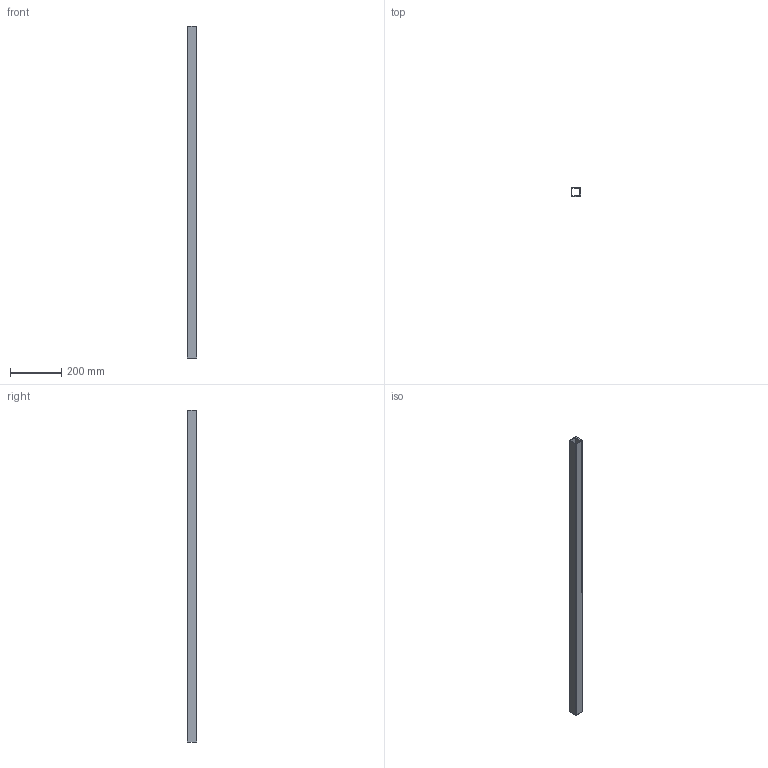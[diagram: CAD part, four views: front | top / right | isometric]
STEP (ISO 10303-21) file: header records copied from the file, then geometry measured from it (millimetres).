
FILE_DESCRIPTION(/* description */ (''),/* implementation_level */ '2;1');
FILE_NAME(/* name */ 'GL0305030101-A(四方管L1).stp',/* time_stamp */ '2026-09-24T14:08:32+08:00',/* author */ (''),/* organization */ (''),/* preprocessor_version */ 'ST-DEVELOPER v16.7',/* originating_system */ 'SIEMENS PLM Software NX 12.0',/* authorisation */ '');
FILE_SCHEMA (('AUTOMOTIVE_DESIGN { 1 0 10303 214 3 1 1 1 }'));
Length unit declared in the file: millimetre
Products named in the file (1): F2D091BFuu7g
Bounding box: 36 x 36 x 1296.25 mm (x, y, z)
Volume: 453002.7 mm3; surface area: 344723.4 mm2
Topology: 1 solids, 1 shells, 74 faces, 196 edges, 144 vertices
Faces by surface type: cylinder 44, plane 30
Full cylindrical faces by diameter (mm): 11.55 x16, 16 x4, 20.05 x16, 25 x4
Entity records: 1944 total; most frequent: DIRECTION 354, CARTESIAN_POINT 295, ORIENTED_EDGE 232, EDGE_LOOP 176, FACE_BOUND 166, AXIS2_PLACEMENT_3D 163, EDGE_CURVE 116, VERTEX_POINT 104
